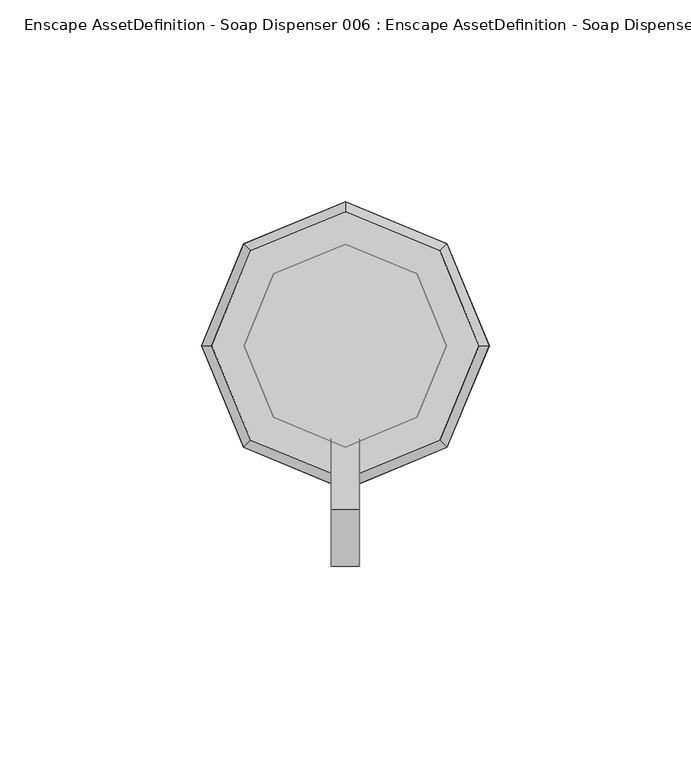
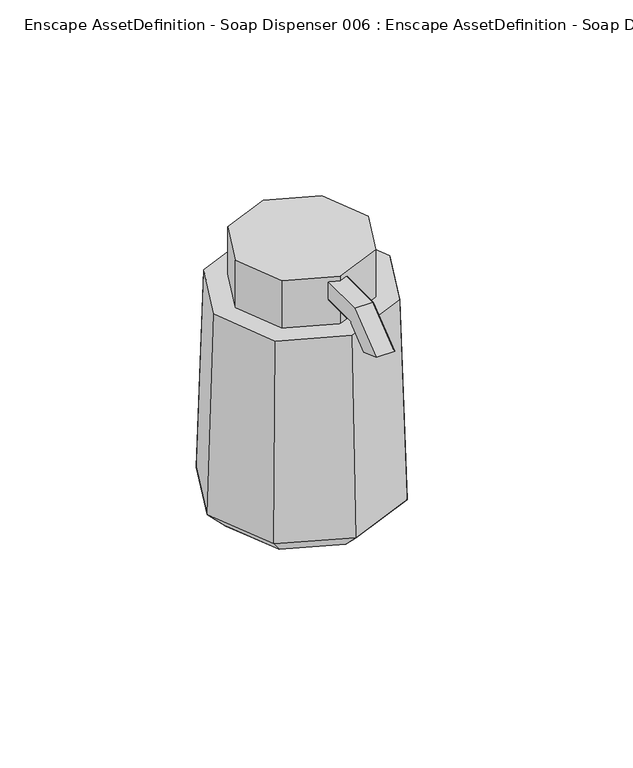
"""IFC4 building model written with IfcOpenShell, lengths in millimetres: geographic element geometry, Enscape AssetDefinition - Soap Dispenser 006 : Enscape AssetDefinition - Soap Dispenser 006."""

from ifc_helpers import new_model, si_unit, origin, place, context, project, spatial, triangles, source, transform, mapped, element, save


def enscape_assetdefinition_soap_dispenser_006_enscape_0d2ccca4(model_context):
    return source(origin(), model_context, "Body", "Tessellation", [
        triangles([(23.4711555, 23.4711555, 86.3225653), (33.1929094, 0.0, 86.3225653), (25.2299712, -25.2299712, 6.9960823), (35.6807186, 0.0, 6.9960823), (28.6846363, 0.0, 0.0), (25.2299712, 25.2299712, 6.9960823), (0.0, 33.1929094, 86.3225653), (0.0, 0.0, 86.3225653), (23.4711555, -23.4711555, 86.3225653), (0.0, -35.6807186, 6.9960823), (20.2830393, -20.2830393, 0.0), (20.2830393, 20.2830393, 0.0), (0.0, 28.6846363, 0.0), (-20.2830393, 20.2830393, 0.0), (0.0, 35.6807186, 6.9960823), (-25.2299712, 25.2299712, 6.9960823), (-28.6846363, 0.0, 0.0), (-35.6807186, 0.0, 6.9960823), (-23.4711555, 23.4711555, 86.3225653), (-23.4711555, -23.4711555, 86.3225653), (-33.1929094, 0.0, 86.3225653), (-25.2299712, -25.2299712, 6.9960823), (-20.2830393, -20.2830393, 0.0), (0.0, 0.0, 0.0), (0.0, -28.6846363, 0.0), (0.0, -33.1929094, 86.3225653), (25.1418202, 0.0, 85.4774315), (25.1418202, 0.0, 104.9412326), (0.0, 25.1418202, 104.9412326), (17.777745, 17.777745, 104.9412326), (17.777745, 17.777745, 85.4774315), (0.0, -25.1418202, 104.9412326), (0.0, -25.1418202, 85.4774315), (17.777745, -17.777745, 85.4774315), (17.777745, -17.777745, 104.9412326), (-17.777745, -17.777745, 85.4774315), (-25.1418202, 0.0, 104.9412326), (-17.777745, 17.777745, 104.9412326), (0.0, 25.1418202, 85.4774315), (-17.777745, 17.777745, 85.4774315), (-25.1418202, 0.0, 85.4774315), (-17.777745, -17.777745, 104.9412326), (-3.4980412, -23.0793757, 102.8424054), (3.4980412, -23.0793757, 102.8424054), (3.4980412, -40.7479806, 102.8424054), (3.4980412, -46.8044878, 89.0678283), (3.4980412, -23.0793757, 95.8582205), (-3.4980412, -38.1888163, 95.7665655), (3.4980412, -38.1888163, 95.7665655), (3.4980412, -54.7086655, 91.7843958), (-3.4980412, -46.8044878, 89.0678283), (-3.4980412, -54.7086655, 91.7843958), (-3.4980412, -40.7479806, 102.8424054), (-3.4980412, -23.0793757, 95.8582205)], [[48, 54, 47], [54, 48, 53], [53, 43, 54], [48, 51, 52], [52, 53, 48], [53, 52, 50], [52, 51, 46], [46, 50, 52], [49, 46, 51], [51, 48, 49], [47, 49, 48], [49, 47, 44], [45, 50, 46], [46, 49, 45], [50, 45, 53], [44, 45, 49], [43, 53, 45], [45, 44, 43], [41, 36, 42], [42, 37, 41], [40, 41, 37], [37, 38, 40], [39, 40, 38], [29, 38, 37], [38, 29, 39], [29, 37, 32], [37, 42, 32], [32, 42, 36], [36, 33, 32], [35, 32, 33], [33, 34, 35], [35, 28, 32], [28, 29, 32], [28, 35, 34], [28, 30, 29], [29, 30, 31], [31, 39, 29], [34, 27, 28], [30, 28, 27], [27, 31, 30], [11, 25, 24], [10, 25, 11], [9, 26, 10], [26, 9, 8], [20, 26, 8], [25, 10, 22], [26, 20, 22], [22, 10, 26], [22, 23, 25], [25, 23, 24], [23, 17, 24], [18, 17, 23], [23, 22, 18], [18, 22, 20], [21, 20, 8], [20, 21, 18], [19, 21, 8], [7, 19, 8], [17, 18, 16], [21, 19, 16], [16, 18, 21], [16, 14, 17], [17, 14, 24], [14, 16, 15], [19, 7, 15], [15, 16, 19], [6, 15, 7], [15, 13, 14], [13, 15, 6], [14, 13, 24], [6, 12, 13], [13, 12, 24], [5, 11, 24], [12, 5, 24], [3, 11, 5], [11, 3, 10], [10, 3, 9], [9, 2, 8], [2, 9, 3], [1, 7, 8], [2, 1, 8], [7, 1, 6], [5, 4, 3], [4, 5, 12], [12, 6, 4], [3, 4, 2], [1, 2, 4], [4, 6, 1]], closed=False),
    ])


if __name__ == "__main__":
    model = new_model("IFC4")
    model_context = context("Model", 3, world=origin())
    ifc_project = project(units=[si_unit("LENGTHUNIT", "METRE", prefix="MILLI")], contexts=[model_context])
    site = spatial("IfcSite", under=ifc_project)
    building = spatial("IfcBuilding", under=site)
    placement = place(None, origin())
    enscape_assetdefinition_soap_dispenser_006_enscape_shape = enscape_assetdefinition_soap_dispenser_006_enscape_0d2ccca4(model_context)
    element("IfcGeographicElement", 1, ObjectType="Enscape AssetDefinition - Soap Dispenser 006 : Enscape AssetDefinition - Soap Dispenser 006", at=placement, inside=building, context=model_context, shape_type="MappedRepresentation", body=[
        mapped(enscape_assetdefinition_soap_dispenser_006_enscape_shape, transform((0.0, 0.0, 0.0), x_axis=(1.0, 0.0, 0.0), y_axis=(0.0, 1.0, 0.0), z_axis=(0.0, 0.0, 1.0))),
    ])
    save(model, "model.ifc")
